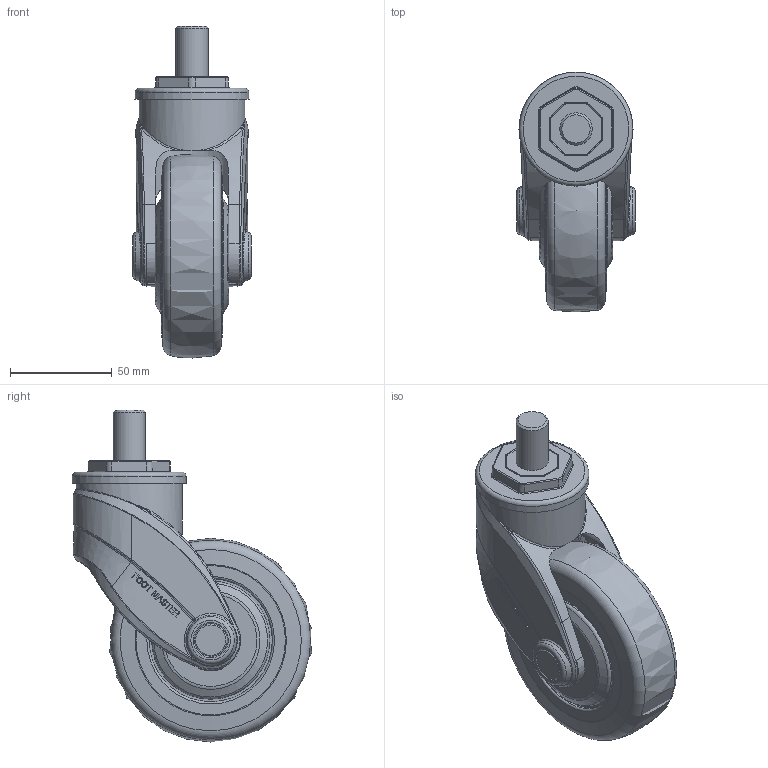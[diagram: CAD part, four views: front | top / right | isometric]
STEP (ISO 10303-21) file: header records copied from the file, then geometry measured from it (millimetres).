
FILE_DESCRIPTION(/* description */ (''),/* implementation_level */ '2;1');
FILE_NAME(/* name */ '\\192.168.10.38\지덕공유\1.기술연구소\2.연구개발 진행중\129.Plastic caster검토건_2025.08.12\1.도면\4.홈페이지용 도면\GPC-100-ASS_F4-7_#6806_5-8-11 UNC STEM_샤프트 리벳_Shrinkwrap_1.stp',/* time_stamp */ '2026-08-19T17:34:54+09:00',/* author */ ('admin'),/* organization */ (''),/* preprocessor_version */ 'ST-DEVELOPER v18.1',/* originating_system */ 'Autodesk Inventor 2021',/* authorisation */ '');
FILE_SCHEMA (('AUTOMOTIVE_DESIGN { 1 0 10303 214 3 1 1 }'));
Length unit declared in the file: millimetre
Products named in the file (1): #56354
Bounding box: 58 x 117.64 x 163 mm (x, y, z)
Volume: 353447.4 mm3; surface area: 51583.8 mm2
Topology: 1 solids, 1 shells, 840 faces, 2246 edges, 1439 vertices
Faces by surface type: bspline 414, plane 234, cylinder 104, cone 47, torus 38, sphere 3
Full cylindrical faces by diameter (mm): 15.875 x1, 18 x1, 40.6 x1, 52 x1
Entity records: 56348 total; most frequent: CARTESIAN_POINT 38368, ORIENTED_EDGE 4476, DIRECTION 2557, EDGE_CURVE 2238, VERTEX_POINT 1439, B_SPLINE_CURVE_WITH_KNOTS 1114, AXIS2_PLACEMENT_3D 1011, EDGE_LOOP 883
